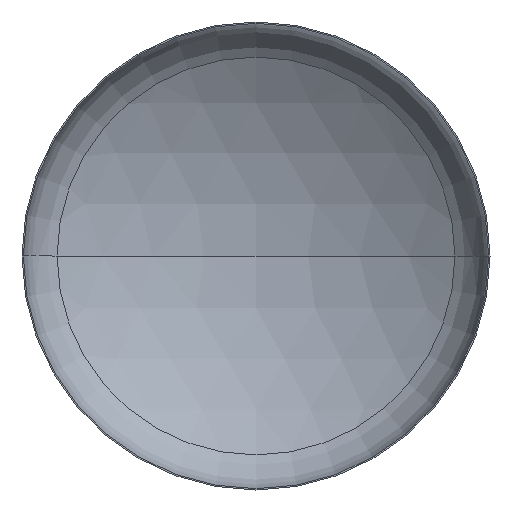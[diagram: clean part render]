
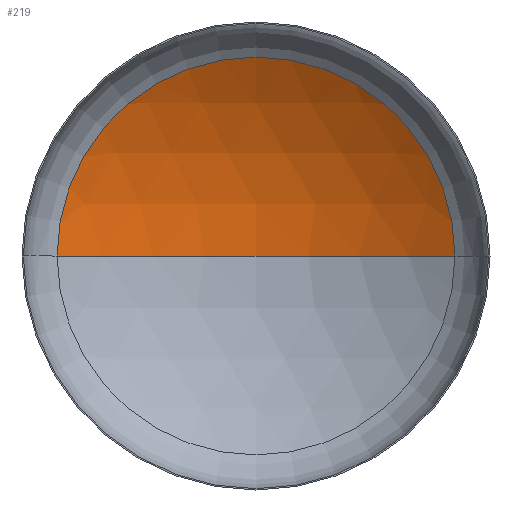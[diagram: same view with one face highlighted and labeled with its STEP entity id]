
A CAD part, front view. The second image highlights one B-rep face of the part: STEP entity #219.
In plain terms, the highlighted spherical face has radius 6000 mm.
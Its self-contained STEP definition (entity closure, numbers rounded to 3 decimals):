
#2 = DIRECTION ( 'NONE',  ( 0., 0., -1. ) ) ;
#13 = CARTESIAN_POINT ( 'NONE',  ( 3187.616, 1048.519, 0. ) ) ;
#18 = CARTESIAN_POINT ( 'NONE',  ( 0., -4034.698, 0. ) ) ;
#35 = ORIENTED_EDGE ( 'NONE', *, *, #169, .F. ) ;
#36 = VERTEX_POINT ( 'NONE', #13 ) ;
#39 = DIRECTION ( 'NONE',  ( 0., 0., -1. ) ) ;
#42 = DIRECTION ( 'NONE',  ( 1., 0., 0. ) ) ;
#56 = AXIS2_PLACEMENT_3D ( 'NONE', #18, #2, #175 ) ;
#83 = AXIS2_PLACEMENT_3D ( 'NONE', #268, #39, #126 ) ;
#88 = AXIS2_PLACEMENT_3D ( 'NONE', #343, #181, #200 ) ;
#90 = AXIS2_PLACEMENT_3D ( 'NONE', #294, #272, #42 ) ;
#112 = VERTEX_POINT ( 'NONE', #248 ) ;
#123 = EDGE_LOOP ( 'NONE', ( #35, #149, #133 ) ) ;
#126 = DIRECTION ( 'NONE',  ( -1., 0., 0. ) ) ;
#133 = ORIENTED_EDGE ( 'NONE', *, *, #161, .T. ) ;
#149 = ORIENTED_EDGE ( 'NONE', *, *, #165, .T. ) ;
#161 = EDGE_CURVE ( 'NONE', #36, #112, #261, .T. ) ;
#165 = EDGE_CURVE ( 'NONE', #224, #36, #190, .T. ) ;
#169 = EDGE_CURVE ( 'NONE', #224, #112, #312, .T. ) ;
#175 = DIRECTION ( 'NONE',  ( -1., 0., 0. ) ) ;
#181 = DIRECTION ( 'NONE',  ( 0., 0., 1. ) ) ;
#185 = FACE_OUTER_BOUND ( 'NONE', #123, .T. ) ;
#190 = CIRCLE ( 'NONE', #83, 6000. ) ;
#200 = DIRECTION ( 'NONE',  ( 1., 0., 0. ) ) ;
#219 = ADVANCED_FACE ( 'NONE', ( #185 ), #361, .F. ) ;
#224 = VERTEX_POINT ( 'NONE', #244 ) ;
#244 = CARTESIAN_POINT ( 'NONE',  ( 0., 1965.302, 0. ) ) ;
#248 = CARTESIAN_POINT ( 'NONE',  ( -3187.616, 1048.519, 0. ) ) ;
#261 = CIRCLE ( 'NONE', #90, 3187.616 ) ;
#268 = CARTESIAN_POINT ( 'NONE',  ( 0., -4034.698, 0. ) ) ;
#272 = DIRECTION ( 'NONE',  ( 0., -1., 0. ) ) ;
#294 = CARTESIAN_POINT ( 'NONE',  ( 0., 1048.519, 0. ) ) ;
#312 = CIRCLE ( 'NONE', #88, 6000. ) ;
#343 = CARTESIAN_POINT ( 'NONE',  ( 0., -4034.698, 0. ) ) ;
#361 = SPHERICAL_SURFACE ( 'NONE', #56, 6000. ) ;
